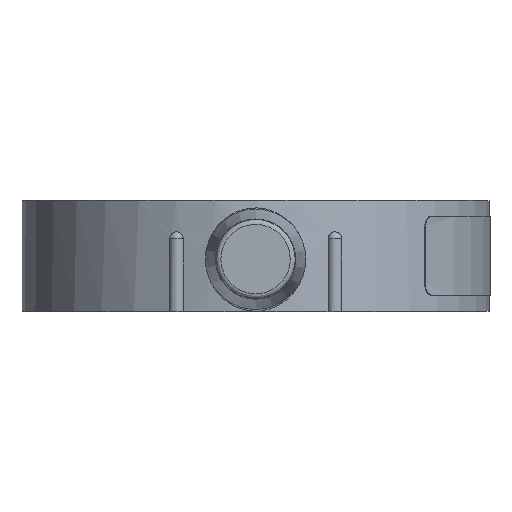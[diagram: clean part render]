
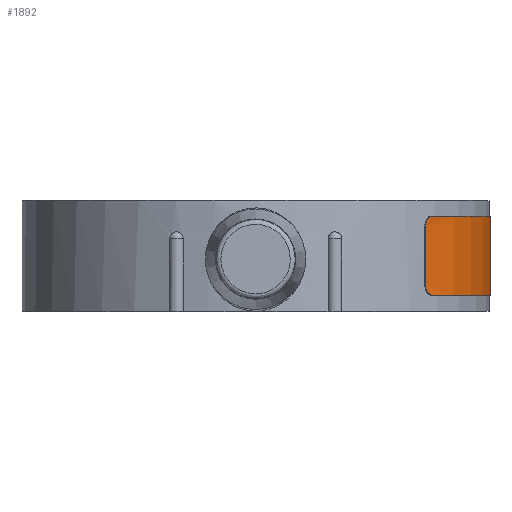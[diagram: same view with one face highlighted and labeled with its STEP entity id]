
A CAD part, top view. The second image highlights one B-rep face of the part: STEP entity #1892.
In plain terms, the highlighted cylindrical face has radius 37.668 mm (diameter 75.336 mm), a partial arc.
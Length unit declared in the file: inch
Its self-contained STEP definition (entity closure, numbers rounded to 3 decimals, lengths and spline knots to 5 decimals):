
#89=CYLINDRICAL_SURFACE('',#2060,1.483);
#135=LINE('',#2863,#229);
#136=LINE('',#2879,#230);
#229=VECTOR('',#2312,0.3937);
#230=VECTOR('',#2315,0.3937);
#318=B_SPLINE_CURVE_WITH_KNOTS('',3,(#2857,#2858,#2859,#2860,#2861),
 .UNSPECIFIED.,.F.,.F.,(4,1,4),(0.,0.6732,1.5708),
 .UNSPECIFIED.);
#319=B_SPLINE_CURVE_WITH_KNOTS('',3,(#2865,#2866,#2867,#2868,#2869),
 .UNSPECIFIED.,.F.,.F.,(4,1,4),(0.,0.6732,1.5708),
 .UNSPECIFIED.);
#320=B_SPLINE_CURVE_WITH_KNOTS('',3,(#2873,#2874,#2875,#2876,#2877),
 .UNSPECIFIED.,.F.,.F.,(4,1,4),(0.,0.6732,1.5708),
 .UNSPECIFIED.);
#321=B_SPLINE_CURVE_WITH_KNOTS('',3,(#2881,#2882,#2883,#2884,#2885),
 .UNSPECIFIED.,.F.,.F.,(4,1,4),(0.,0.8976,1.5708),
 .UNSPECIFIED.);
#399=FACE_OUTER_BOUND('',#525,.T.);
#525=EDGE_LOOP('',(#1288,#1289,#1290,#1291,#1292,#1293,#1294,#1295));
#674=CIRCLE('',#2061,1.483);
#675=CIRCLE('',#2062,1.483);
#796=VERTEX_POINT('',#2855);
#797=VERTEX_POINT('',#2856);
#798=VERTEX_POINT('',#2862);
#799=VERTEX_POINT('',#2864);
#800=VERTEX_POINT('',#2870);
#801=VERTEX_POINT('',#2872);
#802=VERTEX_POINT('',#2878);
#803=VERTEX_POINT('',#2880);
#988=EDGE_CURVE('',#796,#797,#318,.T.);
#989=EDGE_CURVE('',#797,#798,#135,.T.);
#990=EDGE_CURVE('',#798,#799,#319,.T.);
#991=EDGE_CURVE('',#799,#800,#674,.T.);
#992=EDGE_CURVE('',#800,#801,#320,.T.);
#993=EDGE_CURVE('',#801,#802,#136,.T.);
#994=EDGE_CURVE('',#802,#803,#321,.T.);
#995=EDGE_CURVE('',#803,#796,#675,.T.);
#1288=ORIENTED_EDGE('',*,*,#988,.T.);
#1289=ORIENTED_EDGE('',*,*,#989,.T.);
#1290=ORIENTED_EDGE('',*,*,#990,.T.);
#1291=ORIENTED_EDGE('',*,*,#991,.T.);
#1292=ORIENTED_EDGE('',*,*,#992,.T.);
#1293=ORIENTED_EDGE('',*,*,#993,.T.);
#1294=ORIENTED_EDGE('',*,*,#994,.T.);
#1295=ORIENTED_EDGE('',*,*,#995,.T.);
#1892=ADVANCED_FACE('',(#399),#89,.T.);
#2060=AXIS2_PLACEMENT_3D('',#2854,#2310,#2311);
#2061=AXIS2_PLACEMENT_3D('',#2871,#2313,#2314);
#2062=AXIS2_PLACEMENT_3D('',#2886,#2316,#2317);
#2310=DIRECTION('center_axis',(0.,1.,0.));
#2311=DIRECTION('ref_axis',(1.,0.,0.));
#2312=DIRECTION('',(0.,-1.,0.));
#2313=DIRECTION('center_axis',(0.,1.,0.));
#2314=DIRECTION('ref_axis',(0.753,0.,0.658));
#2315=DIRECTION('',(0.,1.,0.));
#2316=DIRECTION('center_axis',(0.,-1.,0.));
#2317=DIRECTION('ref_axis',(0.977,0.,-0.212));
#2854=CARTESIAN_POINT('Origin',(0.,0.,0.));
#2855=CARTESIAN_POINT('',(1.11674,0.6,0.9758));
#2856=CARTESIAN_POINT('',(1.0744,0.5375,1.02223));
#2857=CARTESIAN_POINT('Ctrl Pts',(1.11674,0.6,0.9758));
#2858=CARTESIAN_POINT('Ctrl Pts',(1.10746,0.6,0.98642));
#2859=CARTESIAN_POINT('Ctrl Pts',(1.08533,0.58859,1.01088));
#2860=CARTESIAN_POINT('Ctrl Pts',(1.0744,0.5562,1.02223));
#2861=CARTESIAN_POINT('Ctrl Pts',(1.0744,0.5375,1.02223));
#2862=CARTESIAN_POINT('',(1.0744,0.1625,1.02223));
#2863=CARTESIAN_POINT('',(1.0744,0.5375,1.02223));
#2864=CARTESIAN_POINT('',(1.11674,0.1,0.9758));
#2865=CARTESIAN_POINT('Ctrl Pts',(1.0744,0.1625,1.02223));
#2866=CARTESIAN_POINT('Ctrl Pts',(1.0744,0.14848,1.02223));
#2867=CARTESIAN_POINT('Ctrl Pts',(1.08236,0.11567,1.01398));
#2868=CARTESIAN_POINT('Ctrl Pts',(1.10436,0.1,0.98996));
#2869=CARTESIAN_POINT('Ctrl Pts',(1.11674,0.1,0.9758));
#2870=CARTESIAN_POINT('',(1.44915,0.1,-0.31502));
#2871=CARTESIAN_POINT('Origin',(0.,0.1,0.));
#2872=CARTESIAN_POINT('',(1.43451,0.1625,-0.37613));
#2873=CARTESIAN_POINT('Ctrl Pts',(1.44915,0.1,-0.31502));
#2874=CARTESIAN_POINT('Ctrl Pts',(1.44616,0.1,-0.3288));
#2875=CARTESIAN_POINT('Ctrl Pts',(1.4386,0.1114,-0.36091));
#2876=CARTESIAN_POINT('Ctrl Pts',(1.43451,0.1438,-0.37613));
#2877=CARTESIAN_POINT('Ctrl Pts',(1.43451,0.1625,-0.37613));
#2878=CARTESIAN_POINT('',(1.43451,0.5375,-0.37613));
#2879=CARTESIAN_POINT('',(1.43451,0.1625,-0.37613));
#2880=CARTESIAN_POINT('',(1.44915,0.6,-0.31502));
#2881=CARTESIAN_POINT('Ctrl Pts',(1.43451,0.5375,-0.37613));
#2882=CARTESIAN_POINT('Ctrl Pts',(1.43451,0.5562,-0.37613));
#2883=CARTESIAN_POINT('Ctrl Pts',(1.4386,0.58859,-0.36091));
#2884=CARTESIAN_POINT('Ctrl Pts',(1.44616,0.6,-0.3288));
#2885=CARTESIAN_POINT('Ctrl Pts',(1.44915,0.6,-0.31502));
#2886=CARTESIAN_POINT('Origin',(0.,0.6,0.));
